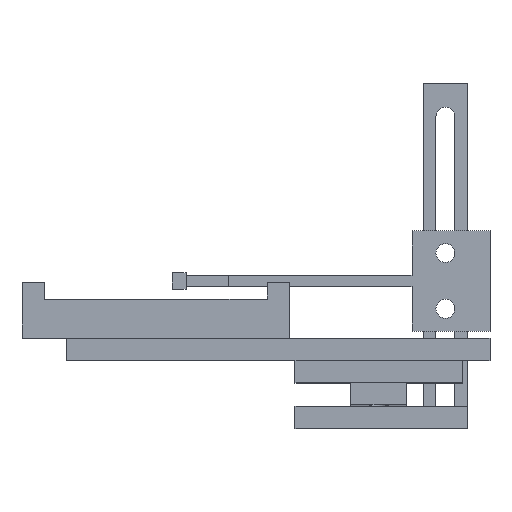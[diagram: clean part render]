
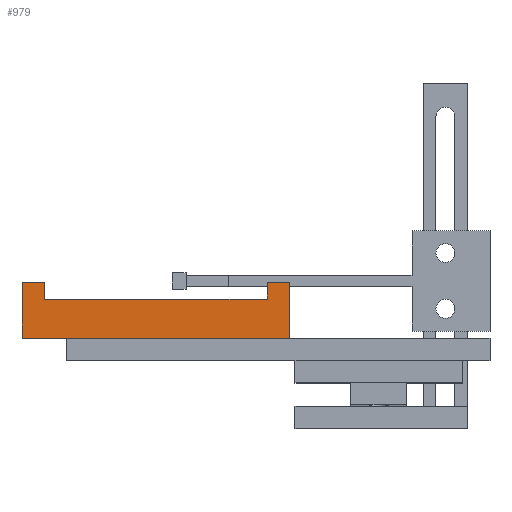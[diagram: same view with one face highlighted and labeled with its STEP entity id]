
A CAD part, top view. The second image highlights one B-rep face of the part: STEP entity #979.
In plain terms, the highlighted planar face has unit normal (0, 0, 1).
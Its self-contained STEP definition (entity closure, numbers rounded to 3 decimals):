
#62 = VERTEX_POINT('',#63);
#63 = CARTESIAN_POINT('',(-24.,-10.,136.));
#70 = PLANE('',#71);
#71 = AXIS2_PLACEMENT_3D('',#72,#73,#74);
#72 = CARTESIAN_POINT('',(-24.,-10.,104.));
#73 = DIRECTION('',(1.,0.,0.));
#74 = DIRECTION('',(0.,0.,1.));
#82 = PLANE('',#83);
#83 = AXIS2_PLACEMENT_3D('',#84,#85,#86);
#84 = CARTESIAN_POINT('',(-24.,-10.,104.));
#85 = DIRECTION('',(0.,1.,0.));
#86 = DIRECTION('',(0.,0.,1.));
#123 = VERTEX_POINT('',#124);
#124 = CARTESIAN_POINT('',(-24.,0.,136.));
#138 = PLANE('',#139);
#139 = AXIS2_PLACEMENT_3D('',#140,#141,#142);
#140 = CARTESIAN_POINT('',(-24.,0.,104.));
#141 = DIRECTION('',(0.,1.,0.));
#142 = DIRECTION('',(0.,0.,1.));
#150 = EDGE_CURVE('',#62,#123,#151,.T.);
#151 = SURFACE_CURVE('',#152,(#156,#163),.PCURVE_S1.);
#152 = LINE('',#153,#154);
#153 = CARTESIAN_POINT('',(-24.,-10.,136.));
#154 = VECTOR('',#155,1.);
#155 = DIRECTION('',(0.,1.,0.));
#156 = PCURVE('',#70,#157);
#157 = DEFINITIONAL_REPRESENTATION('',(#158),#162);
#158 = LINE('',#159,#160);
#159 = CARTESIAN_POINT('',(32.,0.));
#160 = VECTOR('',#161,1.);
#161 = DIRECTION('',(0.,-1.));
#162 = ( GEOMETRIC_REPRESENTATION_CONTEXT(2) 
PARAMETRIC_REPRESENTATION_CONTEXT() REPRESENTATION_CONTEXT('2D SPACE',''
  ) );
#163 = PCURVE('',#164,#169);
#164 = PLANE('',#165);
#165 = AXIS2_PLACEMENT_3D('',#166,#167,#168);
#166 = CARTESIAN_POINT('',(-24.,-10.,136.));
#167 = DIRECTION('',(0.,0.,1.));
#168 = DIRECTION('',(1.,0.,0.));
#169 = DEFINITIONAL_REPRESENTATION('',(#170),#174);
#170 = LINE('',#171,#172);
#171 = CARTESIAN_POINT('',(0.,0.));
#172 = VECTOR('',#173,1.);
#173 = DIRECTION('',(0.,1.));
#174 = ( GEOMETRIC_REPRESENTATION_CONTEXT(2) 
PARAMETRIC_REPRESENTATION_CONTEXT() REPRESENTATION_CONTEXT('2D SPACE',''
  ) );
#203 = EDGE_CURVE('',#62,#204,#206,.T.);
#204 = VERTEX_POINT('',#205);
#205 = CARTESIAN_POINT('',(24.,-10.,136.));
#206 = SURFACE_CURVE('',#207,(#211,#218),.PCURVE_S1.);
#207 = LINE('',#208,#209);
#208 = CARTESIAN_POINT('',(-24.,-10.,136.));
#209 = VECTOR('',#210,1.);
#210 = DIRECTION('',(1.,0.,0.));
#211 = PCURVE('',#82,#212);
#212 = DEFINITIONAL_REPRESENTATION('',(#213),#217);
#213 = LINE('',#214,#215);
#214 = CARTESIAN_POINT('',(32.,0.));
#215 = VECTOR('',#216,1.);
#216 = DIRECTION('',(0.,1.));
#217 = ( GEOMETRIC_REPRESENTATION_CONTEXT(2) 
PARAMETRIC_REPRESENTATION_CONTEXT() REPRESENTATION_CONTEXT('2D SPACE',''
  ) );
#218 = PCURVE('',#164,#219);
#219 = DEFINITIONAL_REPRESENTATION('',(#220),#224);
#220 = LINE('',#221,#222);
#221 = CARTESIAN_POINT('',(0.,0.));
#222 = VECTOR('',#223,1.);
#223 = DIRECTION('',(1.,0.));
#224 = ( GEOMETRIC_REPRESENTATION_CONTEXT(2) 
PARAMETRIC_REPRESENTATION_CONTEXT() REPRESENTATION_CONTEXT('2D SPACE',''
  ) );
#240 = PLANE('',#241);
#241 = AXIS2_PLACEMENT_3D('',#242,#243,#244);
#242 = CARTESIAN_POINT('',(24.,-10.,104.));
#243 = DIRECTION('',(1.,0.,0.));
#244 = DIRECTION('',(0.,0.,1.));
#813 = PLANE('',#814);
#814 = AXIS2_PLACEMENT_3D('',#815,#816,#817);
#815 = CARTESIAN_POINT('',(20.,0.,104.));
#816 = DIRECTION('',(0.,1.,0.));
#817 = DIRECTION('',(0.,0.,1.));
#841 = PLANE('',#842);
#842 = AXIS2_PLACEMENT_3D('',#843,#844,#845);
#843 = CARTESIAN_POINT('',(20.,-3.,104.));
#844 = DIRECTION('',(1.,0.,0.));
#845 = DIRECTION('',(0.,0.,1.));
#869 = PLANE('',#870);
#870 = AXIS2_PLACEMENT_3D('',#871,#872,#873);
#871 = CARTESIAN_POINT('',(-24.,-3.,104.));
#872 = DIRECTION('',(0.,1.,0.));
#873 = DIRECTION('',(0.,0.,1.));
#897 = PLANE('',#898);
#898 = AXIS2_PLACEMENT_3D('',#899,#900,#901);
#899 = CARTESIAN_POINT('',(-20.,-3.,104.));
#900 = DIRECTION('',(1.,0.,0.));
#901 = DIRECTION('',(0.,0.,1.));
#936 = EDGE_CURVE('',#123,#937,#939,.T.);
#937 = VERTEX_POINT('',#938);
#938 = CARTESIAN_POINT('',(-20.,0.,136.));
#939 = SURFACE_CURVE('',#940,(#944,#951),.PCURVE_S1.);
#940 = LINE('',#941,#942);
#941 = CARTESIAN_POINT('',(-24.,0.,136.));
#942 = VECTOR('',#943,1.);
#943 = DIRECTION('',(1.,0.,0.));
#944 = PCURVE('',#138,#945);
#945 = DEFINITIONAL_REPRESENTATION('',(#946),#950);
#946 = LINE('',#947,#948);
#947 = CARTESIAN_POINT('',(32.,0.));
#948 = VECTOR('',#949,1.);
#949 = DIRECTION('',(0.,1.));
#950 = ( GEOMETRIC_REPRESENTATION_CONTEXT(2) 
PARAMETRIC_REPRESENTATION_CONTEXT() REPRESENTATION_CONTEXT('2D SPACE',''
  ) );
#951 = PCURVE('',#164,#952);
#952 = DEFINITIONAL_REPRESENTATION('',(#953),#957);
#953 = LINE('',#954,#955);
#954 = CARTESIAN_POINT('',(0.,10.));
#955 = VECTOR('',#956,1.);
#956 = DIRECTION('',(1.,0.));
#957 = ( GEOMETRIC_REPRESENTATION_CONTEXT(2) 
PARAMETRIC_REPRESENTATION_CONTEXT() REPRESENTATION_CONTEXT('2D SPACE',''
  ) );
#979 = ADVANCED_FACE('',(#980),#164,.T.);
#980 = FACE_BOUND('',#981,.T.);
#981 = EDGE_LOOP('',(#982,#983,#984,#1007,#1030,#1053,#1076,#1097));
#982 = ORIENTED_EDGE('',*,*,#150,.F.);
#983 = ORIENTED_EDGE('',*,*,#203,.T.);
#984 = ORIENTED_EDGE('',*,*,#985,.T.);
#985 = EDGE_CURVE('',#204,#986,#988,.T.);
#986 = VERTEX_POINT('',#987);
#987 = CARTESIAN_POINT('',(24.,0.,136.));
#988 = SURFACE_CURVE('',#989,(#993,#1000),.PCURVE_S1.);
#989 = LINE('',#990,#991);
#990 = CARTESIAN_POINT('',(24.,-10.,136.));
#991 = VECTOR('',#992,1.);
#992 = DIRECTION('',(0.,1.,0.));
#993 = PCURVE('',#164,#994);
#994 = DEFINITIONAL_REPRESENTATION('',(#995),#999);
#995 = LINE('',#996,#997);
#996 = CARTESIAN_POINT('',(48.,0.));
#997 = VECTOR('',#998,1.);
#998 = DIRECTION('',(0.,1.));
#999 = ( GEOMETRIC_REPRESENTATION_CONTEXT(2) 
PARAMETRIC_REPRESENTATION_CONTEXT() REPRESENTATION_CONTEXT('2D SPACE',''
  ) );
#1000 = PCURVE('',#240,#1001);
#1001 = DEFINITIONAL_REPRESENTATION('',(#1002),#1006);
#1002 = LINE('',#1003,#1004);
#1003 = CARTESIAN_POINT('',(32.,0.));
#1004 = VECTOR('',#1005,1.);
#1005 = DIRECTION('',(0.,-1.));
#1006 = ( GEOMETRIC_REPRESENTATION_CONTEXT(2) 
PARAMETRIC_REPRESENTATION_CONTEXT() REPRESENTATION_CONTEXT('2D SPACE',''
  ) );
#1007 = ORIENTED_EDGE('',*,*,#1008,.F.);
#1008 = EDGE_CURVE('',#1009,#986,#1011,.T.);
#1009 = VERTEX_POINT('',#1010);
#1010 = CARTESIAN_POINT('',(20.,0.,136.));
#1011 = SURFACE_CURVE('',#1012,(#1016,#1023),.PCURVE_S1.);
#1012 = LINE('',#1013,#1014);
#1013 = CARTESIAN_POINT('',(20.,0.,136.));
#1014 = VECTOR('',#1015,1.);
#1015 = DIRECTION('',(1.,0.,0.));
#1016 = PCURVE('',#164,#1017);
#1017 = DEFINITIONAL_REPRESENTATION('',(#1018),#1022);
#1018 = LINE('',#1019,#1020);
#1019 = CARTESIAN_POINT('',(44.,10.));
#1020 = VECTOR('',#1021,1.);
#1021 = DIRECTION('',(1.,0.));
#1022 = ( GEOMETRIC_REPRESENTATION_CONTEXT(2) 
PARAMETRIC_REPRESENTATION_CONTEXT() REPRESENTATION_CONTEXT('2D SPACE',''
  ) );
#1023 = PCURVE('',#813,#1024);
#1024 = DEFINITIONAL_REPRESENTATION('',(#1025),#1029);
#1025 = LINE('',#1026,#1027);
#1026 = CARTESIAN_POINT('',(32.,0.));
#1027 = VECTOR('',#1028,1.);
#1028 = DIRECTION('',(0.,1.));
#1029 = ( GEOMETRIC_REPRESENTATION_CONTEXT(2) 
PARAMETRIC_REPRESENTATION_CONTEXT() REPRESENTATION_CONTEXT('2D SPACE',''
  ) );
#1030 = ORIENTED_EDGE('',*,*,#1031,.F.);
#1031 = EDGE_CURVE('',#1032,#1009,#1034,.T.);
#1032 = VERTEX_POINT('',#1033);
#1033 = CARTESIAN_POINT('',(20.,-3.,136.));
#1034 = SURFACE_CURVE('',#1035,(#1039,#1046),.PCURVE_S1.);
#1035 = LINE('',#1036,#1037);
#1036 = CARTESIAN_POINT('',(20.,-3.,136.));
#1037 = VECTOR('',#1038,1.);
#1038 = DIRECTION('',(0.,1.,0.));
#1039 = PCURVE('',#164,#1040);
#1040 = DEFINITIONAL_REPRESENTATION('',(#1041),#1045);
#1041 = LINE('',#1042,#1043);
#1042 = CARTESIAN_POINT('',(44.,7.));
#1043 = VECTOR('',#1044,1.);
#1044 = DIRECTION('',(0.,1.));
#1045 = ( GEOMETRIC_REPRESENTATION_CONTEXT(2) 
PARAMETRIC_REPRESENTATION_CONTEXT() REPRESENTATION_CONTEXT('2D SPACE',''
  ) );
#1046 = PCURVE('',#841,#1047);
#1047 = DEFINITIONAL_REPRESENTATION('',(#1048),#1052);
#1048 = LINE('',#1049,#1050);
#1049 = CARTESIAN_POINT('',(32.,0.));
#1050 = VECTOR('',#1051,1.);
#1051 = DIRECTION('',(0.,-1.));
#1052 = ( GEOMETRIC_REPRESENTATION_CONTEXT(2) 
PARAMETRIC_REPRESENTATION_CONTEXT() REPRESENTATION_CONTEXT('2D SPACE',''
  ) );
#1053 = ORIENTED_EDGE('',*,*,#1054,.F.);
#1054 = EDGE_CURVE('',#1055,#1032,#1057,.T.);
#1055 = VERTEX_POINT('',#1056);
#1056 = CARTESIAN_POINT('',(-20.,-3.,136.));
#1057 = SURFACE_CURVE('',#1058,(#1062,#1069),.PCURVE_S1.);
#1058 = LINE('',#1059,#1060);
#1059 = CARTESIAN_POINT('',(-24.,-3.,136.));
#1060 = VECTOR('',#1061,1.);
#1061 = DIRECTION('',(1.,0.,0.));
#1062 = PCURVE('',#164,#1063);
#1063 = DEFINITIONAL_REPRESENTATION('',(#1064),#1068);
#1064 = LINE('',#1065,#1066);
#1065 = CARTESIAN_POINT('',(0.,7.));
#1066 = VECTOR('',#1067,1.);
#1067 = DIRECTION('',(1.,0.));
#1068 = ( GEOMETRIC_REPRESENTATION_CONTEXT(2) 
PARAMETRIC_REPRESENTATION_CONTEXT() REPRESENTATION_CONTEXT('2D SPACE',''
  ) );
#1069 = PCURVE('',#869,#1070);
#1070 = DEFINITIONAL_REPRESENTATION('',(#1071),#1075);
#1071 = LINE('',#1072,#1073);
#1072 = CARTESIAN_POINT('',(32.,0.));
#1073 = VECTOR('',#1074,1.);
#1074 = DIRECTION('',(0.,1.));
#1075 = ( GEOMETRIC_REPRESENTATION_CONTEXT(2) 
PARAMETRIC_REPRESENTATION_CONTEXT() REPRESENTATION_CONTEXT('2D SPACE',''
  ) );
#1076 = ORIENTED_EDGE('',*,*,#1077,.T.);
#1077 = EDGE_CURVE('',#1055,#937,#1078,.T.);
#1078 = SURFACE_CURVE('',#1079,(#1083,#1090),.PCURVE_S1.);
#1079 = LINE('',#1080,#1081);
#1080 = CARTESIAN_POINT('',(-20.,-3.,136.));
#1081 = VECTOR('',#1082,1.);
#1082 = DIRECTION('',(0.,1.,0.));
#1083 = PCURVE('',#164,#1084);
#1084 = DEFINITIONAL_REPRESENTATION('',(#1085),#1089);
#1085 = LINE('',#1086,#1087);
#1086 = CARTESIAN_POINT('',(4.,7.));
#1087 = VECTOR('',#1088,1.);
#1088 = DIRECTION('',(0.,1.));
#1089 = ( GEOMETRIC_REPRESENTATION_CONTEXT(2) 
PARAMETRIC_REPRESENTATION_CONTEXT() REPRESENTATION_CONTEXT('2D SPACE',''
  ) );
#1090 = PCURVE('',#897,#1091);
#1091 = DEFINITIONAL_REPRESENTATION('',(#1092),#1096);
#1092 = LINE('',#1093,#1094);
#1093 = CARTESIAN_POINT('',(32.,0.));
#1094 = VECTOR('',#1095,1.);
#1095 = DIRECTION('',(0.,-1.));
#1096 = ( GEOMETRIC_REPRESENTATION_CONTEXT(2) 
PARAMETRIC_REPRESENTATION_CONTEXT() REPRESENTATION_CONTEXT('2D SPACE',''
  ) );
#1097 = ORIENTED_EDGE('',*,*,#936,.F.);
